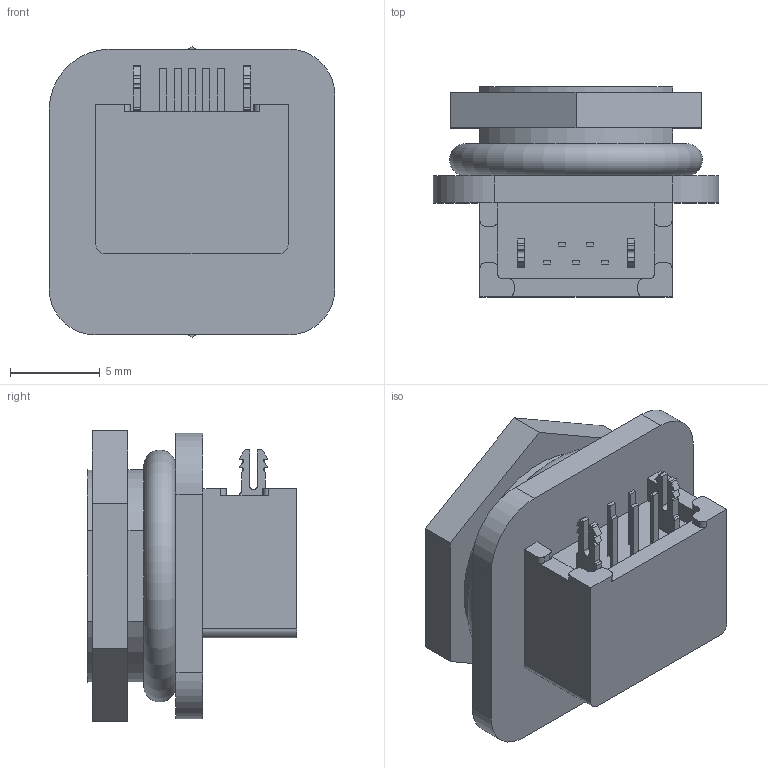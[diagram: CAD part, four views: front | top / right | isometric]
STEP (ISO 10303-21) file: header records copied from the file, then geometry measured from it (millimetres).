
FILE_DESCRIPTION( ( 'STEP AP203' ), '1' );
FILE_NAME( 'p:/temp/worker_179/temp/exporttempdir_1400_243_hpMt9/format_0/SPM-05-S-B-RA-PF.stp', '2020-09-16T08:00:28', ( 'License CC BY-ND 4.0' ), ( 'CADENAS' ), ' ', 'PARTsolutions', ' ' );
FILE_SCHEMA( ( 'CONFIG_CONTROL_DESIGN' ) );
Length unit declared in the file: millimetre
Products named in the file (6): SPM-05-S-B-RA-PF; _SAM-05-S-B-RA-PF_s; _SAM-05-S-B-RA-PF_b; _SAM-05-S-B-RA-PF_p; _SAM-05-S-B-RA-PF_t; _SAM-05-S-B-RA-PF_c
Assembly tree (6 placements, depth 2):
  SPM-05-S-B-RA-PF
    _SAM-05-S-B-RA-PF_s
    _SAM-05-S-B-RA-PF_b
    _SAM-05-S-B-RA-PF_p
    _SAM-05-S-B-RA-PF_t
    _SAM-05-S-B-RA-PF_c  x2
Bounding box: 15.9 x 11.69 x 16.17 mm (x, y, z)
Volume: 1267.6 mm3; surface area: 2135.7 mm2
Topology: 6 solids, 6 shells, 419 faces, 1193 edges, 792 vertices
Faces by surface type: plane 280, cylinder 138, torus 1
Entity records: 12798 total; most frequent: CARTESIAN_POINT 2271, ORIENTED_EDGE 2198, DIRECTION 2129, EDGE_CURVE 1099, LINE 847, VECTOR 847, VERTEX_POINT 731, AXIS2_PLACEMENT_3D 641
